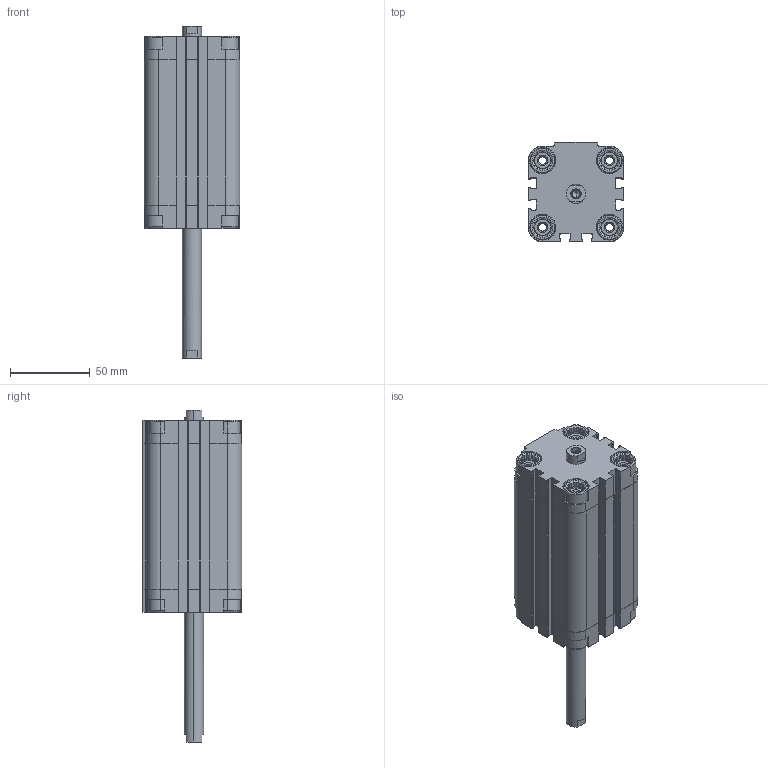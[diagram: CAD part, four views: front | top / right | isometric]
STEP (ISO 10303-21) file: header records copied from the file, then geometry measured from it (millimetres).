
FILE_DESCRIPTION (( 'STEP AP203' ), '1' );
FILE_NAME ('CDVU40-75F-P.STEP', '2020-07-24T18:15:38', ( '' ), ( '' ), 'SwSTEP 2.0', 'SolidWorks 2019', '' );
FILE_SCHEMA (( 'CONFIG_CONTROL_DESIGN' ));
Length unit declared in the file: millimetre
Products named in the file (1): CDVU40-75F-P
Bounding box: 60 x 62.5 x 208.5 mm (x, y, z)
Volume: 306093.8 mm3; surface area: 84043.2 mm2
Topology: 2 solids, 2 shells, 722 faces, 1928 edges, 1244 vertices
Faces by surface type: plane 422, cylinder 236, cone 64
Entity records: 22623 total; most frequent: CARTESIAN_POINT 4463, ORIENTED_EDGE 3840, DIRECTION 3710, EDGE_CURVE 1920, AXIS2_PLACEMENT_3D 1259, VERTEX_POINT 1244, VECTOR 1192, LINE 1192
